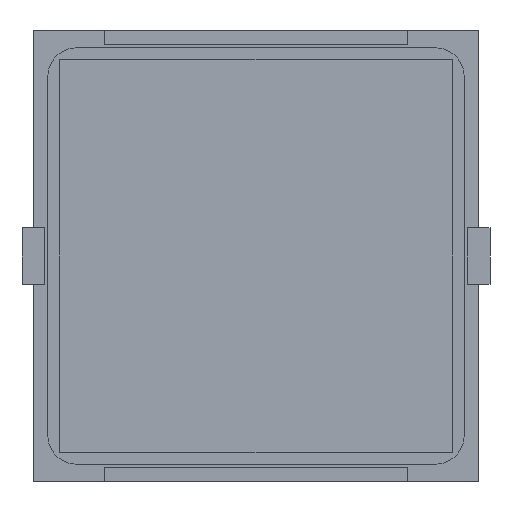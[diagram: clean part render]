
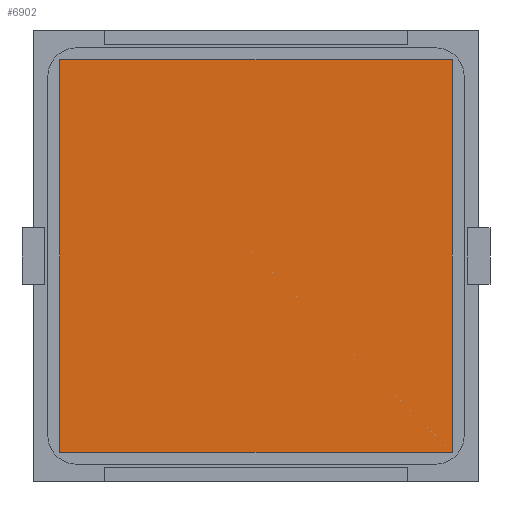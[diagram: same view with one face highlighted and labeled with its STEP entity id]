
A CAD part, front view. The second image highlights one B-rep face of the part: STEP entity #6902.
In plain terms, the highlighted planar face has unit normal (0, -1, 0).
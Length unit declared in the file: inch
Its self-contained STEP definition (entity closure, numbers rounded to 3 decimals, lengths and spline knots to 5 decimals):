
#286 = VECTOR ( 'NONE', #11841, 39.37008 ) ;
#572 = VERTEX_POINT ( 'NONE', #8368 ) ;
#1784 = VERTEX_POINT ( 'NONE', #9134 ) ;
#1885 = CARTESIAN_POINT ( 'NONE',  ( 0.68898, -0.005, 0.68898 ) ) ;
#3006 = DIRECTION ( 'NONE',  ( 0., 0., 1. ) ) ;
#3454 = CARTESIAN_POINT ( 'NONE',  ( -0.68898, -0.005, 0.68898 ) ) ;
#4748 = CARTESIAN_POINT ( 'NONE',  ( -0.68898, -0.005, 0.68898 ) ) ;
#5418 = EDGE_LOOP ( 'NONE', ( #9450, #12567, #14206, #14104 ) ) ;
#5657 = EDGE_CURVE ( 'NONE', #18231, #6058, #10393, .T. ) ;
#6058 = VERTEX_POINT ( 'NONE', #9816 ) ;
#6077 = CARTESIAN_POINT ( 'NONE',  ( -0.68898, -0.005, -0.68898 ) ) ;
#6087 = LINE ( 'NONE', #4748, #15152 ) ;
#6388 = EDGE_CURVE ( 'NONE', #572, #1784, #14463, .T. ) ;
#6902 = ADVANCED_FACE ( 'NONE', ( #12195 ), #16218, .F. ) ;
#8368 = CARTESIAN_POINT ( 'NONE',  ( -0.68898, -0.005, -0.68898 ) ) ;
#8403 = AXIS2_PLACEMENT_3D ( 'NONE', #3454, #17946, #10470 ) ;
#8728 = CARTESIAN_POINT ( 'NONE',  ( -0.68898, -0.005, -0.68898 ) ) ;
#8859 = LINE ( 'NONE', #6077, #17882 ) ;
#8898 = EDGE_CURVE ( 'NONE', #6058, #572, #8859, .T. ) ;
#9069 = DIRECTION ( 'NONE',  ( 1., 0., 0. ) ) ;
#9134 = CARTESIAN_POINT ( 'NONE',  ( -0.68898, -0.005, 0.68898 ) ) ;
#9450 = ORIENTED_EDGE ( 'NONE', *, *, #6388, .F. ) ;
#9816 = CARTESIAN_POINT ( 'NONE',  ( 0.68898, -0.005, -0.68898 ) ) ;
#10393 = LINE ( 'NONE', #17761, #286 ) ;
#10470 = DIRECTION ( 'NONE',  ( 0., 0., 1. ) ) ;
#11841 = DIRECTION ( 'NONE',  ( 0., 0., -1. ) ) ;
#11908 = DIRECTION ( 'NONE',  ( -1., 0., 0. ) ) ;
#12022 = VECTOR ( 'NONE', #3006, 39.37008 ) ;
#12195 = FACE_OUTER_BOUND ( 'NONE', #5418, .T. ) ;
#12567 = ORIENTED_EDGE ( 'NONE', *, *, #8898, .F. ) ;
#14104 = ORIENTED_EDGE ( 'NONE', *, *, #15934, .F. ) ;
#14206 = ORIENTED_EDGE ( 'NONE', *, *, #5657, .F. ) ;
#14463 = LINE ( 'NONE', #8728, #12022 ) ;
#15152 = VECTOR ( 'NONE', #9069, 39.37008 ) ;
#15934 = EDGE_CURVE ( 'NONE', #1784, #18231, #6087, .T. ) ;
#16218 = PLANE ( 'NONE',  #8403 ) ;
#17761 = CARTESIAN_POINT ( 'NONE',  ( 0.68898, -0.005, -0.68898 ) ) ;
#17882 = VECTOR ( 'NONE', #11908, 39.37008 ) ;
#17946 = DIRECTION ( 'NONE',  ( 0., 1., 0. ) ) ;
#18231 = VERTEX_POINT ( 'NONE', #1885 ) ;
